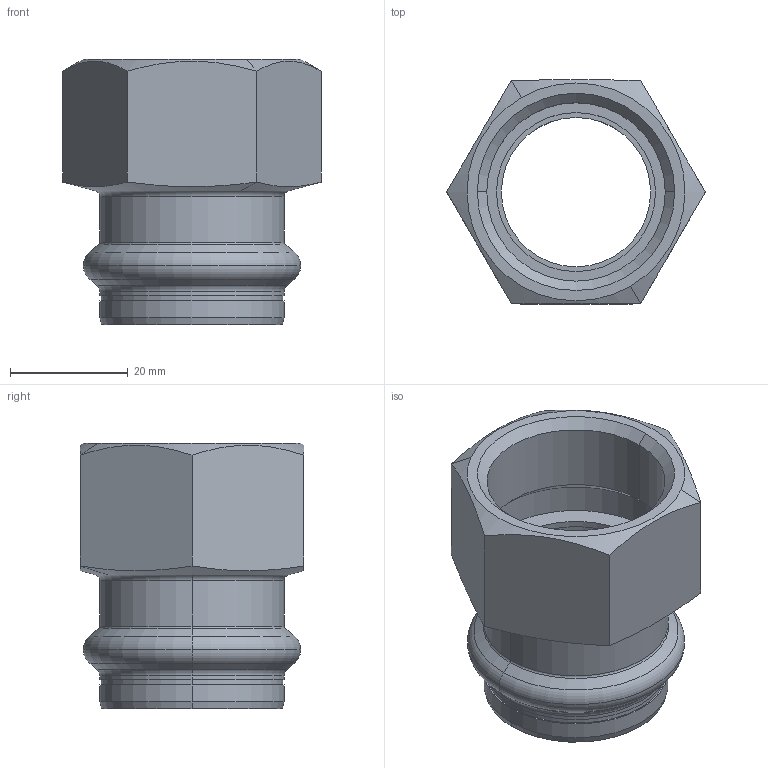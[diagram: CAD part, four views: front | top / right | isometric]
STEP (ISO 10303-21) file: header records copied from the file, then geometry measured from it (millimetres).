
FILE_DESCRIPTION(('CoCreate Modeling STEP Export'),'2;1');
FILE_NAME('8270GVW281.stp','2013-03-05T11:13:44',(''),(''),'CoCreate Modeling STEP processor for AP214 (Solid Model)','CoCreate Modeling 17.00A 17-Jun-2010 (C) Parametric Technology GmbH','');
FILE_SCHEMA(('AUTOMOTIVE_DESIGN { 1 0 10303 214 1 1 1 1 }'));
Length unit declared in the file: millimetre
Products named in the file (2): 8270GVW281
Assembly tree (1 placements, depth 2):
  8270GVW281
    8270GVW281
Bounding box: 43.88 x 38 x 45 mm (x, y, z)
Volume: 15501.8 mm3; surface area: 11143.4 mm2
Topology: 1 solids, 1 shells, 61 faces, 138 edges, 84 vertices
Faces by surface type: cylinder 20, cone 18, plane 13, torus 10
Entity records: 2268 total; most frequent: CARTESIAN_POINT 1046, ORIENTED_EDGE 276, DIRECTION 200, EDGE_CURVE 138, VERTEX_POINT 84, AXIS2_PLACEMENT_3D 78, EDGE_LOOP 68, FACE_OUTER_BOUND 61
